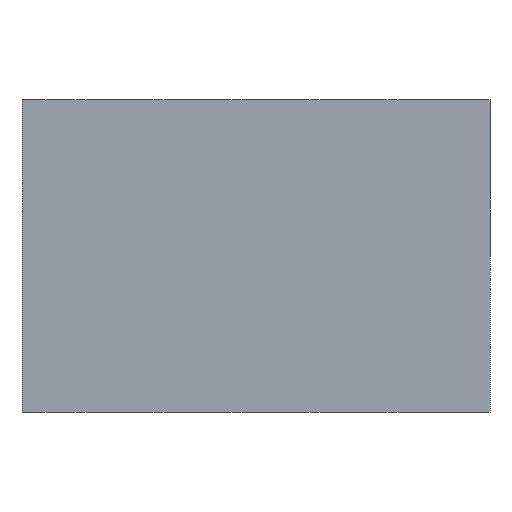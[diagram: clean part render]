
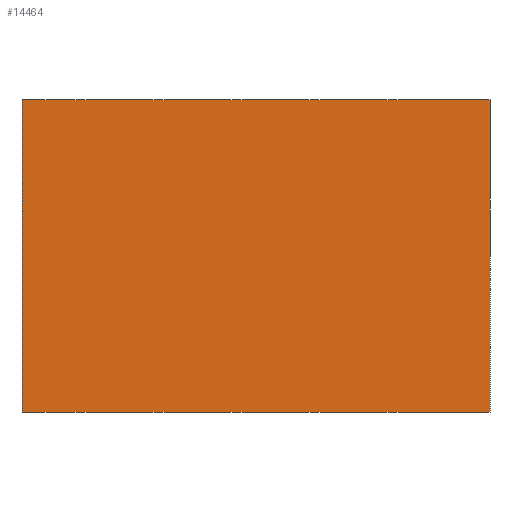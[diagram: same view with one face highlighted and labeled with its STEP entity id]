
A CAD part, front view. The second image highlights one B-rep face of the part: STEP entity #14464.
In plain terms, the highlighted planar face has unit normal (0, -1, 0).
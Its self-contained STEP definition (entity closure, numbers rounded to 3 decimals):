
#554 = ORIENTED_EDGE ( 'NONE', *, *, #11552, .F. ) ;
#990 = VERTEX_POINT ( 'NONE', #10787 ) ;
#1021 = VECTOR ( 'NONE', #1261, 1000. ) ;
#1261 = DIRECTION ( 'NONE',  ( 0., 0., -1. ) ) ;
#2187 = CARTESIAN_POINT ( 'NONE',  ( 0., 143.212, 200. ) ) ;
#2839 = AXIS2_PLACEMENT_3D ( 'NONE', #2187, #3447, #12477 ) ;
#3299 = EDGE_CURVE ( 'NONE', #14532, #13549, #4161, .T. ) ;
#3447 = DIRECTION ( 'NONE',  ( 0., 1., 0. ) ) ;
#4057 = CARTESIAN_POINT ( 'NONE',  ( 44.733, 143.212, 0. ) ) ;
#4160 = EDGE_LOOP ( 'NONE', ( #13246, #554, #4654, #6054 ) ) ;
#4161 = LINE ( 'NONE', #10844, #7593 ) ;
#4329 = LINE ( 'NONE', #15149, #12987 ) ;
#4654 = ORIENTED_EDGE ( 'NONE', *, *, #8540, .F. ) ;
#4913 = VECTOR ( 'NONE', #10618, 1000. ) ;
#5101 = LINE ( 'NONE', #6709, #4913 ) ;
#6054 = ORIENTED_EDGE ( 'NONE', *, *, #3299, .T. ) ;
#6709 = CARTESIAN_POINT ( 'NONE',  ( 0., 143.212, 200. ) ) ;
#7593 = VECTOR ( 'NONE', #12123, 1000. ) ;
#7769 = FACE_OUTER_BOUND ( 'NONE', #4160, .T. ) ;
#7939 = CARTESIAN_POINT ( 'NONE',  ( 344.733, 143.212, 200. ) ) ;
#8540 = EDGE_CURVE ( 'NONE', #14532, #16601, #5101, .T. ) ;
#8968 = CARTESIAN_POINT ( 'NONE',  ( 344.733, 143.212, 200. ) ) ;
#10083 = DIRECTION ( 'NONE',  ( 1., 0., 0. ) ) ;
#10618 = DIRECTION ( 'NONE',  ( 1., 0., 0. ) ) ;
#10787 = CARTESIAN_POINT ( 'NONE',  ( 344.733, 143.212, 0. ) ) ;
#10844 = CARTESIAN_POINT ( 'NONE',  ( 44.733, 143.212, 200. ) ) ;
#11200 = PLANE ( 'NONE',  #2839 ) ;
#11552 = EDGE_CURVE ( 'NONE', #16601, #990, #14286, .T. ) ;
#12123 = DIRECTION ( 'NONE',  ( 0., 0., -1. ) ) ;
#12477 = DIRECTION ( 'NONE',  ( 0., 0., 1. ) ) ;
#12987 = VECTOR ( 'NONE', #10083, 1000. ) ;
#13246 = ORIENTED_EDGE ( 'NONE', *, *, #14533, .T. ) ;
#13549 = VERTEX_POINT ( 'NONE', #4057 ) ;
#14286 = LINE ( 'NONE', #8968, #1021 ) ;
#14464 = ADVANCED_FACE ( 'NONE', ( #7769 ), #11200, .F. ) ;
#14532 = VERTEX_POINT ( 'NONE', #16414 ) ;
#14533 = EDGE_CURVE ( 'NONE', #13549, #990, #4329, .T. ) ;
#15149 = CARTESIAN_POINT ( 'NONE',  ( 0., 143.212, 0. ) ) ;
#16414 = CARTESIAN_POINT ( 'NONE',  ( 44.733, 143.212, 200. ) ) ;
#16601 = VERTEX_POINT ( 'NONE', #7939 ) ;
